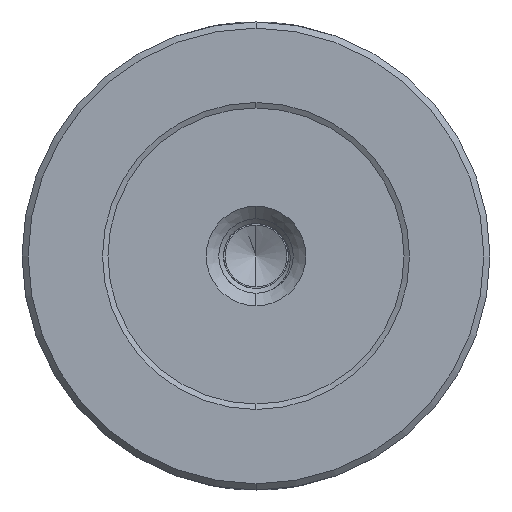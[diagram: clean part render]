
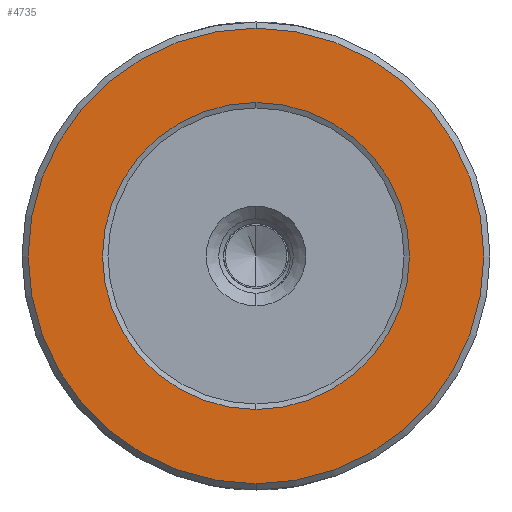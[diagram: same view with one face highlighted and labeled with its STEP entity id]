
A CAD part, front view. The second image highlights one B-rep face of the part: STEP entity #4735.
In plain terms, the highlighted planar face has unit normal (0, -1, 0).
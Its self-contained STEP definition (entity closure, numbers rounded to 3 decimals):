
#1199=CARTESIAN_POINT('',(0.,-50.,0.));
#1200=DIRECTION('',(0.,1.,0.));
#1201=DIRECTION('',(0.,0.,-1.));
#1202=AXIS2_PLACEMENT_3D('',#1199,#1200,#1201);
#1204=CARTESIAN_POINT('',(0.,-50.,0.));
#1205=DIRECTION('',(0.,1.,0.));
#1206=DIRECTION('',(0.,0.,1.));
#1207=AXIS2_PLACEMENT_3D('',#1204,#1205,#1206);
#1209=CARTESIAN_POINT('',(0.,-50.,0.));
#1210=DIRECTION('',(0.,-1.,0.));
#1211=DIRECTION('',(0.,0.,-1.));
#1212=AXIS2_PLACEMENT_3D('',#1209,#1210,#1211);
#1214=CARTESIAN_POINT('',(0.,-50.,0.));
#1215=DIRECTION('',(0.,-1.,0.));
#1216=DIRECTION('',(0.,0.,1.));
#1217=AXIS2_PLACEMENT_3D('',#1214,#1215,#1216);
#2297=CARTESIAN_POINT('',(0.,-50.,-18.372));
#2298=CARTESIAN_POINT('',(0.,-50.,18.372));
#2299=VERTEX_POINT('',#2297);
#2300=VERTEX_POINT('',#2298);
#2301=CARTESIAN_POINT('',(0.,-50.,-12.378));
#2302=CARTESIAN_POINT('',(0.,-50.,12.378));
#2303=VERTEX_POINT('',#2301);
#2304=VERTEX_POINT('',#2302);
#4719=CARTESIAN_POINT('',(0.,-50.,0.));
#4720=DIRECTION('',(0.,1.,0.));
#4721=DIRECTION('',(0.,0.,1.));
#4722=AXIS2_PLACEMENT_3D('',#4719,#4720,#4721);
#4723=PLANE('',#4722);
#4724=ORIENTED_EDGE('',*,*,#4709,.T.);
#4726=ORIENTED_EDGE('',*,*,#4725,.T.);
#4727=EDGE_LOOP('',(#4724,#4726));
#4728=FACE_OUTER_BOUND('',#4727,.F.);
#4730=ORIENTED_EDGE('',*,*,#4729,.T.);
#4732=ORIENTED_EDGE('',*,*,#4731,.T.);
#4733=EDGE_LOOP('',(#4730,#4732));
#4734=FACE_BOUND('',#4733,.F.);
#4735=ADVANCED_FACE('',(#4728,#4734),#4723,.F.);
#1203=CIRCLE('',#1202,18.372);
#1208=CIRCLE('',#1207,18.372);
#1213=CIRCLE('',#1212,12.378);
#1218=CIRCLE('',#1217,12.378);
#4709=EDGE_CURVE('',#2299,#2300,#1203,.T.);
#4725=EDGE_CURVE('',#2300,#2299,#1208,.T.);
#4729=EDGE_CURVE('',#2303,#2304,#1213,.T.);
#4731=EDGE_CURVE('',#2304,#2303,#1218,.T.);
